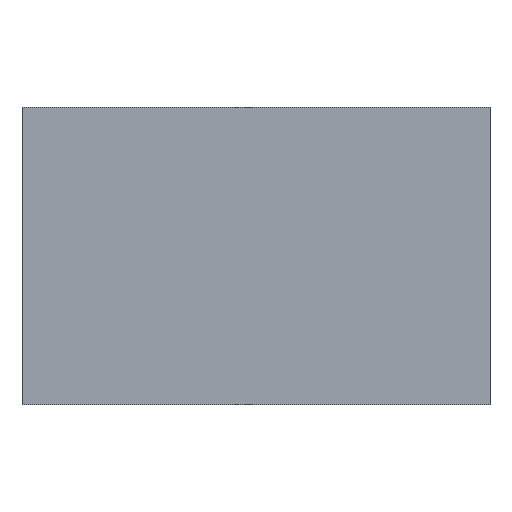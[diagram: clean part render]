
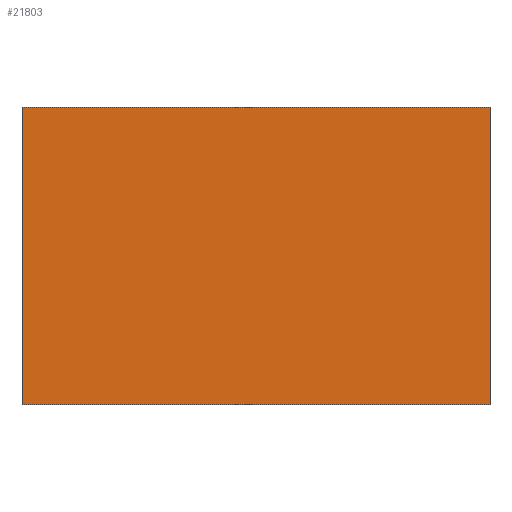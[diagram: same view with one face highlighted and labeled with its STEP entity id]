
A CAD part, front view. The second image highlights one B-rep face of the part: STEP entity #21803.
In plain terms, the highlighted planar face has unit normal (0, -1, 0).
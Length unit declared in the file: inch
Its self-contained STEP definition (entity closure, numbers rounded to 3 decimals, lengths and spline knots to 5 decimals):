
#1320 = CARTESIAN_POINT ( 'NONE',  ( 6.54821, -5.2425, 2.63699 ) ) ;
#1812 = CARTESIAN_POINT ( 'NONE',  ( -10.98095, -5.2425, -6.9345 ) ) ;
#3158 = CARTESIAN_POINT ( 'NONE',  ( 10.98095, -5.2425, 7.03345 ) ) ;
#4765 = EDGE_CURVE ( 'NONE', #4919, #43493, #15091, .T. ) ;
#4801 = DIRECTION ( 'NONE',  ( 0., -1., 0. ) ) ;
#4919 = VERTEX_POINT ( 'NONE', #20020 ) ;
#6774 = VERTEX_POINT ( 'NONE', #31246 ) ;
#7023 = DIRECTION ( 'NONE',  ( 0., 0., -1. ) ) ;
#8893 = ORIENTED_EDGE ( 'NONE', *, *, #9259, .F. ) ;
#9259 = EDGE_CURVE ( 'NONE', #43493, #6774, #32278, .T. ) ;
#9277 = AXIS2_PLACEMENT_3D ( 'NONE', #1320, #4801, #28928 ) ;
#9380 = FACE_OUTER_BOUND ( 'NONE', #12604, .T. ) ;
#10798 = VECTOR ( 'NONE', #15693, 39.37008 ) ;
#10869 = VERTEX_POINT ( 'NONE', #37076 ) ;
#11727 = DIRECTION ( 'NONE',  ( 1., 0., 0. ) ) ;
#12578 = VECTOR ( 'NONE', #21428, 39.37008 ) ;
#12604 = EDGE_LOOP ( 'NONE', ( #20556, #8893, #39438, #25768 ) ) ;
#15091 = LINE ( 'NONE', #44044, #41569 ) ;
#15693 = DIRECTION ( 'NONE',  ( 0., 0., 1. ) ) ;
#20020 = CARTESIAN_POINT ( 'NONE',  ( -10.98095, -5.2425, 7.03345 ) ) ;
#20556 = ORIENTED_EDGE ( 'NONE', *, *, #23449, .F. ) ;
#21428 = DIRECTION ( 'NONE',  ( -1., 0., 0. ) ) ;
#21803 = ADVANCED_FACE ( 'NONE', ( #9380 ), #21996, .T. ) ;
#21996 = PLANE ( 'NONE',  #9277 ) ;
#22019 = VECTOR ( 'NONE', #7023, 39.37008 ) ;
#23449 = EDGE_CURVE ( 'NONE', #6774, #10869, #40161, .T. ) ;
#24207 = CARTESIAN_POINT ( 'NONE',  ( 10.98095, -5.2425, 7.03345 ) ) ;
#25768 = ORIENTED_EDGE ( 'NONE', *, *, #35365, .F. ) ;
#28928 = DIRECTION ( 'NONE',  ( 0., 0., -1. ) ) ;
#29173 = LINE ( 'NONE', #1812, #10798 ) ;
#31246 = CARTESIAN_POINT ( 'NONE',  ( 10.98095, -5.2425, -6.9345 ) ) ;
#32278 = LINE ( 'NONE', #24207, #22019 ) ;
#35365 = EDGE_CURVE ( 'NONE', #10869, #4919, #29173, .T. ) ;
#37076 = CARTESIAN_POINT ( 'NONE',  ( -10.98095, -5.2425, -6.9345 ) ) ;
#38364 = CARTESIAN_POINT ( 'NONE',  ( 10.98095, -5.2425, -6.9345 ) ) ;
#39438 = ORIENTED_EDGE ( 'NONE', *, *, #4765, .F. ) ;
#40161 = LINE ( 'NONE', #38364, #12578 ) ;
#41569 = VECTOR ( 'NONE', #11727, 39.37008 ) ;
#43493 = VERTEX_POINT ( 'NONE', #3158 ) ;
#44044 = CARTESIAN_POINT ( 'NONE',  ( -10.98095, -5.2425, 7.03345 ) ) ;
